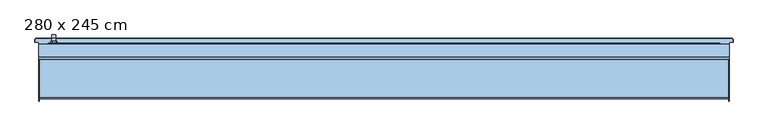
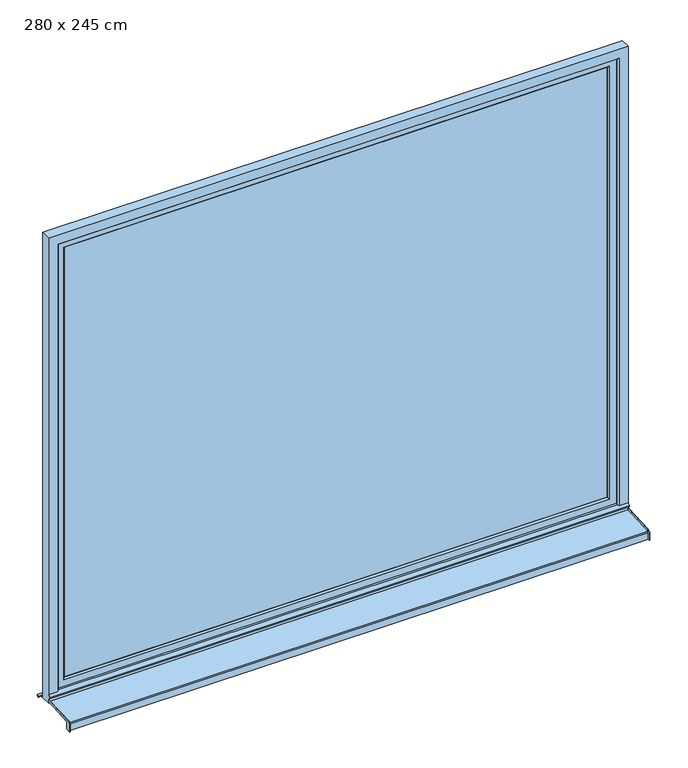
"""IFC4 building model written with IfcOpenShell, lengths in millimetres: window geometry, Fenêtre type 1 : 280 x 245 cm."""

from ifc_helpers import new_model, si_unit, frame, origin, place, context, project, spatial, polyline, circle_curve, outline, extrude, faceted_brep, source, transform, mapped, element, save
from ifc_brep_helpers import plane_surface, cylinder_surface, revolved_surface, advanced_brep


def window_280_x_245_cm_447e3024(model_context):
    return source(origin(), model_context, "Body", "SolidModel", [
        faceted_brep([(-1360.5, 103.0, 1306.0), (-1360.5, 103.0, 1294.0), (-1344.5, 103.0, 1294.0), (-1344.5, 103.0, 1306.0), (-1344.5, 115.4852814, 1306.0), (-1360.5, 115.4852814, 1306.0), (-1344.5, 110.5147186, 1294.0), (-1344.5, 117.0, 1287.5147186), (-1344.5, 117.0, 1287.2282668), (-1344.5, 119.7580139, 1208.5355339), (-1344.5, 129.0, 1208.5355339), (-1344.5, 129.0, 1292.4852814), (-1360.5, 110.5147186, 1294.0), (-1360.5, 129.0, 1292.4852814), (-1360.5, 129.0, 1208.5355339), (-1360.5, 119.7580139, 1208.5355339), (-1360.5, 117.0099909, 1287.2286157), (-1360.5, 117.0, 1287.5147186), (-1348.0355339, 129.0, 1205.0), (-1348.0355339, 119.8814775, 1205.0), (-1356.9644661, 119.8814775, 1205.0), (-1356.9644661, 129.0, 1205.0)], [[[0, 1, 2, 3]], [[3, 4, 5, 0]], [[2, 6, 7, 8, 9, 10, 11, 4, 3]], [[1, 12, 6, 2]], [[0, 5, 13, 14, 15, 16, 17, 12, 1]], [[4, 11, 13, 5]], [[6, 12, 17, 7]], [[18, 19, 20, 21]], [[11, 10, 18, 21, 14, 13]], [[17, 16, 8, 7]], [[16, 15, 20, 19, 9, 8]], [[9, 19, 18, 10]], [[14, 21, 20, 15]]]),
        extrude(outline(polyline([(1330.0, -1359.5), (1325.0, -1364.5), (1275.0, -1364.5), (1270.0, -1359.5), (1270.0, -1345.5), (1275.0, -1340.5), (1325.0, -1340.5), (1330.0, -1345.5), (1330.0, -1359.5)])), frame((0.0, 95.0, 0.0), z_axis=(0.0, 1.0, 0.0), x_axis=(0.0, 0.0, 1.0)), (0.0, 0.0, 1.0), 8.0),
        advanced_brep(
        [(-1415.0, -115.0, 762.0), (-1415.0, -141.5, 762.0), (-1415.0, -141.5, 795.1063906), (-1415.0, -127.2850393, 810.0858337), (-1415.0, 40.0, 818.8528711), (-1415.0, 40.0, 807.3370891), (-1415.0, -115.0, 799.2138833), (1415.0, -115.0, 799.2138833), (1415.0, 40.0, 807.3370891), (1415.0, 40.0, 818.8528711), (1415.0, -127.2850393, 810.0858337), (1415.0, -141.5, 795.1063906), (1415.0, -141.5, 762.0), (1415.0, -115.0, 762.0), (-1413.0, 40.0, 818.8528711), (-1413.0, 40.0, 808.8391476), (1413.0, 40.0, 808.8391476), (1413.0, 40.0, 818.8528711), (-1413.0, -126.7616798, 800.0995383), (1413.0, -126.7616798, 800.0995383), (1413.0, -131.5, 795.1063906), (-1413.0, -131.5, 795.1063906), (-1413.0, -131.5, 762.0), (1413.0, -131.5, 762.0), (-1413.0, -130.0, 762.0), (1413.0, -130.0, 762.0), (1413.0, -115.0, 762.0), (1413.0, -141.5, 762.0), (-1413.0, -141.5, 762.0), (-1413.0, -115.0, 762.0), (-1413.0, -120.0, 772.0), (1413.0, -120.0, 772.0), (-1413.0, -121.0606602, 773.0606602), (1413.0, -121.0606602, 773.0606602), (-1413.0, -130.0, 764.1213203), (1413.0, -130.0, 764.1213203), (-1413.0, -130.0, 795.0728058), (1413.0, -130.0, 795.0728058), (-1413.0, -115.0, 799.2138833), (1413.0, -115.0, 799.2138833), (1413.0, -126.649637, 798.6033517), (-1413.0, -126.649637, 798.6033517), (1413.0, -141.5, 795.1063906), (1413.0, -127.2850393, 810.0858337), (-1413.0, -127.2850393, 810.0858337), (-1413.0, -141.5, 795.1063906)],
        [
            (0, 1),
            (1, 2),
            (2, 3, circle_curve(frame((-1415.0, -126.5, 795.1063906), z_axis=(-1.0, 0.0, 0.0), x_axis=(0.0, -0.052335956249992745, 0.9986295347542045)), 15.0)),
            (3, 4),
            (4, 5),
            (5, 6),
            (6, 0),
            (7, 8),
            (8, 9),
            (9, 10),
            (10, 11, circle_curve(frame((1415.0, -126.5, 795.1063906), z_axis=(1.0, 0.0, 0.0), x_axis=(0.0, -1.0, 0.0)), 15.0)),
            (11, 12),
            (12, 13),
            (13, 7),
            (14, 15),
            (15, 16),
            (16, 17),
            (17, 9),
            (8, 5),
            (4, 14),
            (18, 19),
            (19, 16),
            (15, 18),
            (20, 21),
            (21, 22),
            (22, 23),
            (23, 20),
            (24, 25),
            (25, 26),
            (26, 13),
            (12, 27),
            (27, 23),
            (22, 28),
            (28, 1),
            (0, 29),
            (29, 24),
            (30, 31),
            (31, 25),
            (24, 30),
            (32, 33),
            (33, 31),
            (30, 32),
            (34, 35),
            (35, 33),
            (32, 34),
            (36, 37),
            (37, 35),
            (34, 36),
            (38, 6),
            (7, 39),
            (39, 40),
            (40, 41),
            (41, 38),
            (41, 36, circle_curve(frame((-1413.0, -126.4646089, 795.0728058), z_axis=(1.0, 0.0, 0.0), x_axis=(0.0, 1.0, 0.0)), 3.5353911)),
            (29, 38),
            (37, 40, circle_curve(frame((1413.0, -126.4646089, 795.0728058), z_axis=(-1.0, 0.0, 0.0), x_axis=(0.0, 1.0, 0.0)), 3.5353911)),
            (39, 26),
            (18, 21, circle_curve(frame((-1413.0, -126.5, 795.1063906), z_axis=(1.0, 0.0, 0.0), x_axis=(0.0, 1.0, 0.0)), 5.0)),
            (20, 19, circle_curve(frame((1413.0, -126.5, 795.1063906), z_axis=(-1.0, 0.0, 0.0), x_axis=(0.0, 1.0, 0.0)), 5.0)),
            (27, 42),
            (42, 43, circle_curve(frame((1413.0, -126.5, 795.1063906), z_axis=(-1.0, 0.0, 0.0), x_axis=(0.0, -1.0, 0.0)), 15.0)),
            (43, 17),
            (11, 42),
            (10, 43),
            (14, 44),
            (44, 45, circle_curve(frame((-1413.0, -126.5, 795.1063906), z_axis=(1.0, 0.0, 0.0), x_axis=(0.0, -0.052335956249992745, 0.9986295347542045)), 15.0)),
            (45, 28),
            (3, 44),
            (2, 45),
        ],
        [
            plane_surface(frame((-1415.0, 40.0, 807.3370891), z_axis=(-1.0, 0.0, 0.0), x_axis=(0.0, 0.0, 1.0))),
            plane_surface(frame((1415.0, 40.0, 807.3370891), z_axis=(1.0, 0.0, 0.0), x_axis=(0.0, 0.0, -1.0))),
            plane_surface(frame((-1415.0, 40.0, 807.3370891), z_axis=(0.0, 1.0, 0.0), x_axis=(1.0, 0.0, 0.0))),
            plane_surface(frame((-1415.0, 40.0, 808.8391476), z_axis=(0.0, -0.052335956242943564, 0.9986295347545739), x_axis=(1.0, 0.0, 0.0))),
            plane_surface(frame((-1415.0, -131.5, 795.1063906), z_axis=(0.0, -1.0, 0.0), x_axis=(1.0, 0.0, 0.0))),
            plane_surface(frame((-1415.0, -131.5, 762.0), z_axis=(0.0, 0.0, -1.0), x_axis=(1.0, 0.0, 0.0))),
            plane_surface(frame((-1415.0, -130.0, 762.0), z_axis=(0.0, 0.7071067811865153, -0.7071067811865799), x_axis=(1.0, 0.0, 0.0))),
            plane_surface(frame((-1415.0, -120.0, 772.0), z_axis=(0.0, 0.7071067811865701, 0.707106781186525), x_axis=(1.0, 0.0, 0.0))),
            plane_surface(frame((-1415.0, -121.0606602, 773.0606602), z_axis=(0.0, -0.7071067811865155, 0.7071067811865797), x_axis=(1.0, 0.0, 0.0))),
            plane_surface(frame((-1415.0, -130.0, 764.1213203), z_axis=(0.0, 1.0, 0.0), x_axis=(1.0, 0.0, 0.0))),
            plane_surface(frame((-1415.0, -126.649637, 798.6033517), z_axis=(0.0, 0.05233595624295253, -0.9986295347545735), x_axis=(1.0, 0.0, 0.0))),
            plane_surface(frame((-1413.0, -130.0, 798.4277666), z_axis=(1.0, 0.0, 0.0), x_axis=(0.0, 0.9986295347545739, 0.052335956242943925))),
            plane_surface(frame((-1415.0, -115.0, 762.0), z_axis=(0.0, 1.0, 0.0), x_axis=(1.0, 0.0, 0.0))),
            plane_surface(frame((1413.0, -130.0, 798.4277666), z_axis=(-1.0, 0.0, 0.0), x_axis=(0.0, 0.0, -1.0))),
            plane_surface(frame((1413.0, -115.0, 762.0), z_axis=(0.0, 1.0, 0.0), x_axis=(1.0, 0.0, 0.0))),
            cylinder_surface(frame((1415.0, -126.5, 795.1063906), z_axis=(-1.0, 0.0, 0.0), x_axis=(0.0, 1.0, 0.0)), 5.0),
            revolved_surface(polyline([(1413.0, -122.9292178, 795.0728058), (-1413.0, -122.9292178, 795.0728058)]), (1415.0, -126.4646089, 795.0728058), (1.0, 0.0, 0.0)),
            plane_surface(frame((1413.0, -131.5, 762.0), z_axis=(-1.0, 0.0, 0.0), x_axis=(0.0, 0.0, 1.0))),
            plane_surface(frame((1413.0, -141.5, 762.0), z_axis=(0.0, -1.0, 0.0), x_axis=(0.0, 0.0, 1.0))),
            cylinder_surface(frame((1415.0, -126.5, 795.1063906), z_axis=(1.0, 0.0, 0.0), x_axis=(0.0, -1.0, 0.0)), 15.0),
            plane_surface(frame((1413.0, -127.2850393, 810.0858337), z_axis=(0.0, -0.05233595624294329, 0.9986295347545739), x_axis=(0.0, 0.9986295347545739, 0.05233595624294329))),
            plane_surface(frame((-1413.0, 40.0, 818.8528711), z_axis=(1.0, 0.0, 0.0), x_axis=(0.0, 0.9986295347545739, 0.05233595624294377))),
            plane_surface(frame((-1415.0, 40.0, 818.8528711), z_axis=(0.0, -0.05233595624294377, 0.9986295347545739), x_axis=(1.0, 0.0, 0.0))),
            cylinder_surface(frame((-1415.0, -126.5, 795.1063906), z_axis=(-1.0, 0.0, 0.0), x_axis=(0.0, -0.052335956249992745, 0.9986295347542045)), 15.0),
            plane_surface(frame((-1413.0, -141.5, 795.1063906), z_axis=(0.0, -1.0, 0.0), x_axis=(0.0, 0.0, -1.0))),
        ],
        [
            (0, [[1, 2, 3, 4, 5, 6, 7]]),
            (1, [[8, 9, 10, 11, 12, 13, 14]]),
            (2, [[15, 16, 17, 18, -9, 19, -5, 20]]),
            (3, [[21, 22, -16, 23]]),
            (4, [[24, 25, 26, 27]]),
            (5, [[28, 29, 30, -13, 31, 32, -26, 33, 34, -1, 35, 36]]),
            (6, [[37, 38, -28, 39]]),
            (7, [[40, 41, -37, 42]]),
            (8, [[43, 44, -40, 45]]),
            (9, [[46, 47, -43, 48]]),
            (10, [[49, -6, -19, -8, 50, 51, 52, 53]]),
            (11, [[-53, 54, -48, -45, -42, -39, -36, 55]]),
            (12, [[-35, -7, -49, -55]]),
            (13, [[-38, -41, -44, -47, 56, -51, 57, -29]]),
            (14, [[-50, -14, -30, -57]]),
            (15, [[-21, 58, -24, 59]]),
            (16, [[-52, -56, -46, -54]]),
            (17, [[60, 61, 62, -17, -22, -59, -27, -32]]),
            (18, [[-12, 63, -60, -31]]),
            (19, [[64, -61, -63, -11]]),
            (20, [[-10, -18, -62, -64]]),
            (21, [[65, 66, 67, -33, -25, -58, -23, -15]]),
            (22, [[68, -65, -20, -4]]),
            (23, [[69, -66, -68, -3]]),
            (24, [[-34, -67, -69, -2]]),
        ],
    ),
        extrude(outline(polyline([(-1325.0, 85.0), (1325.0, 85.0), (1325.0, 65.0), (-1325.0, 65.0), (-1325.0, 85.0)])), frame((0.0, 0.0, 890.0), z_axis=(0.0, 0.0, 1.0), x_axis=(1.0, 0.0, 0.0)), (0.0, 0.0, 1.0), 2220.0),
        faceted_brep([(-1375.0, 95.0, 840.0), (1375.0, 95.0, 840.0), (1375.0, 55.0, 840.0), (-1375.0, 55.0, 840.0), (1375.0, 95.0, 3160.0), (1375.0, 55.0, 3160.0), (-1375.0, 55.0, 3160.0), (1332.0710678, 55.0, 3117.0710678), (1332.0710678, 55.0, 882.9289322), (-1332.0710678, 55.0, 882.9289322), (-1332.0710678, 55.0, 3117.0710678), (-1375.0, 95.0, 3160.0), (1332.0710678, 95.0, 882.9289322), (1332.0710678, 95.0, 3117.0710678), (-1332.0710678, 95.0, 3117.0710678), (-1332.0710678, 95.0, 882.9289322), (-1325.0, 87.9289322, 890.0), (1325.0, 87.9289322, 890.0), (1325.0, 87.9289322, 3110.0), (1325.0, 62.0710678, 890.0), (1325.0, 62.0710678, 3110.0), (-1325.0, 62.0710678, 890.0), (-1325.0, 87.9289322, 3110.0), (-1325.0, 62.0710678, 3110.0)], [[[0, 1, 2, 3]], [[1, 4, 5, 2]], [[2, 5, 6, 3], [7, 8, 9, 10]], [[4, 1, 0, 11], [12, 13, 14, 15]], [[16, 17, 12, 15]], [[17, 18, 13, 12]], [[19, 20, 18, 17]], [[9, 8, 19, 21]], [[8, 7, 20, 19]], [[11, 0, 3, 6]], [[22, 16, 15, 14]], [[23, 21, 16, 22]], [[10, 9, 21, 23]], [[21, 19, 17, 16]], [[4, 11, 6, 5]], [[18, 22, 14, 13]], [[7, 10, 23, 20]], [[20, 23, 22, 18]]]),
        faceted_brep([(1415.0, 40.0, 800.0), (1415.0, 90.0, 800.0), (1415.0, 90.0, 3200.0), (1415.0, 40.0, 3200.0), (1415.0, 40.0, 845.0), (1415.0, 30.0, 835.0), (1415.0, 30.0, 830.0), (1415.0, 40.0, 830.0), (-1415.0, 40.0, 830.0), (-1415.0, 40.0, 800.0), (-1415.0, 30.0, 830.0), (-1415.0, 30.0, 835.0), (1370.0, 40.0, 845.0), (1365.0, 45.0, 850.0), (-1365.0, 45.0, 850.0), (-1370.0, 40.0, 845.0), (-1415.0, 40.0, 845.0), (-1415.0, 40.0, 3200.0), (-1370.0, 40.0, 3155.0), (1370.0, 40.0, 3155.0), (-1415.0, 90.0, 800.0), (-1415.0, 90.0, 3200.0), (1375.0, 90.0, 840.0), (1375.0, 90.0, 3160.0), (-1375.0, 90.0, 3160.0), (-1375.0, 90.0, 840.0), (-1375.0, 55.0, 840.0), (1375.0, 55.0, 840.0), (-1375.0, 55.0, 3160.0), (1375.0, 55.0, 3160.0), (1365.0, 55.0, 850.0), (1365.0, 55.0, 3150.0), (-1365.0, 55.0, 3150.0), (-1365.0, 55.0, 850.0), (-1365.0, 45.0, 3150.0), (1365.0, 45.0, 3150.0)], [[[0, 1, 2, 3, 4, 5, 6, 7]], [[7, 8, 9, 0]], [[6, 10, 8, 7]], [[5, 11, 10, 6]], [[5, 4, 12, 13, 14, 15, 16, 11]], [[17, 16, 15, 18, 19, 12, 4, 3]], [[1, 20, 21, 2], [22, 23, 24, 25]], [[0, 9, 20, 1]], [[9, 8, 10, 11, 16, 17, 21, 20]], [[25, 26, 27, 22]], [[26, 25, 24, 28]], [[22, 27, 29, 23]], [[29, 27, 26, 28], [30, 31, 32, 33]], [[33, 14, 13, 30]], [[34, 14, 33, 32]], [[31, 30, 13, 35]], [[35, 13, 12, 19]], [[18, 15, 14, 34]], [[3, 2, 21, 17]], [[28, 24, 23, 29]], [[31, 35, 34, 32]], [[18, 34, 35, 19]]]),
        advanced_brep(
        [(1415.0, 100.0, 805.0), (1428.9971508, 100.0, 805.0), (1428.9971508, 110.0, 805.0), (1425.0, 113.9971508, 805.0), (-1425.0, 113.9971508, 805.0), (-1428.9971508, 110.0, 805.0), (-1428.9971508, 100.0, 805.0), (-1415.0, 100.0, 805.0), (-1415.0, 90.0, 805.0), (1415.0, 90.0, 805.0), (-1415.0, 100.0, 800.0), (-1428.9971508, 100.0, 800.0), (-1428.9971508, 110.0, 800.0), (-1425.0, 113.9971508, 800.0), (1425.0, 113.9971508, 800.0), (1428.9971508, 110.0, 800.0), (1428.9971508, 100.0, 800.0), (1415.0, 100.0, 800.0), (1415.0, 90.0, 800.0), (-1415.0, 90.0, 800.0), (-1430.0, 110.0, 801.0028492), (-1430.0, 100.0, 801.0028492), (-1430.0, 100.0, 803.9971508), (-1430.0, 110.0, 803.9971508), (1430.0, 100.0, 801.0028492), (1430.0, 100.0, 803.9971508), (1430.0, 110.0, 801.0028492), (1430.0, 110.0, 803.9971508), (1425.0, 115.0, 801.0028492), (-1425.0, 115.0, 801.0028492), (-1425.0, 115.0, 803.9971508), (1425.0, 115.0, 803.9971508)],
        [
            (0, 1),
            (1, 2),
            (2, 3, circle_curve(frame((1425.0, 110.0, 805.0), z_axis=(0.0, 0.0, 1.0), x_axis=(0.0, 1.0, 0.0)), 3.9971508)),
            (3, 4),
            (4, 5, circle_curve(frame((-1425.0, 110.0, 805.0), z_axis=(0.0, 0.0, 1.0), x_axis=(-1.0, 0.0, 0.0)), 3.9971508)),
            (5, 6),
            (6, 7),
            (7, 8),
            (8, 9),
            (9, 0),
            (10, 11),
            (11, 12),
            (12, 13, circle_curve(frame((-1425.0, 110.0, 800.0), z_axis=(0.0, 0.0, -1.0), x_axis=(-1.0, 0.0, 0.0)), 3.9971508)),
            (13, 14),
            (14, 15, circle_curve(frame((1425.0, 110.0, 800.0), z_axis=(0.0, 0.0, -1.0), x_axis=(0.0, 1.0, 0.0)), 3.9971508)),
            (15, 16),
            (16, 17),
            (17, 18),
            (18, 19),
            (19, 10),
            (20, 21),
            (21, 22),
            (22, 23),
            (23, 20),
            (6, 22),
            (21, 11),
            (10, 7),
            (19, 8),
            (18, 9),
            (17, 0),
            (16, 24),
            (24, 25),
            (25, 1),
            (24, 26),
            (26, 27),
            (27, 25),
            (28, 29),
            (29, 30),
            (30, 31),
            (31, 28),
            (31, 27, circle_curve(frame((1425.0, 110.0, 803.9971508), z_axis=(0.0, 0.0, -1.0), x_axis=(0.0, 1.0, 0.0)), 5.0)),
            (26, 28, circle_curve(frame((1425.0, 110.0, 801.0028492), z_axis=(0.0, 0.0, 1.0), x_axis=(0.0, 1.0, 0.0)), 5.0)),
            (23, 30, circle_curve(frame((-1425.0, 110.0, 803.9971508), z_axis=(0.0, 0.0, -1.0), x_axis=(0.0, 1.0, 0.0)), 5.0)),
            (29, 20, circle_curve(frame((-1425.0, 110.0, 801.0028492), z_axis=(0.0, 0.0, 1.0), x_axis=(0.0, 1.0, 0.0)), 5.0)),
            (5, 23),
            (20, 12),
            (4, 30),
            (29, 13),
            (3, 31),
            (28, 14),
            (2, 27),
            (26, 15),
        ],
        [
            plane_surface(frame((-1430.0, 100.0, 805.0), z_axis=(0.0, 0.0, 1.0), x_axis=(0.0, 1.0, 0.0))),
            plane_surface(frame((-1430.0, 100.0, 800.0), z_axis=(0.0, 0.0, -1.0), x_axis=(0.0, -1.0, 0.0))),
            plane_surface(frame((-1430.0, 110.0, 800.0), z_axis=(-1.0, 0.0, 0.0), x_axis=(0.0, 0.0, 1.0))),
            plane_surface(frame((-1430.0, 100.0, 800.0), z_axis=(0.0, -1.0, 0.0), x_axis=(0.0, 0.0, 1.0))),
            plane_surface(frame((-1415.0, 100.0, 800.0), z_axis=(-1.0, 0.0, 0.0), x_axis=(0.0, 0.0, 1.0))),
            plane_surface(frame((-1415.0, 90.0, 800.0), z_axis=(0.0, -1.0, 0.0), x_axis=(0.0, 0.0, 1.0))),
            plane_surface(frame((1415.0, 90.0, 800.0), z_axis=(1.0, 0.0, 0.0), x_axis=(0.0, 0.0, 1.0))),
            plane_surface(frame((1415.0, 100.0, 800.0), z_axis=(0.0, -1.0, 0.0), x_axis=(0.0, 0.0, 1.0))),
            plane_surface(frame((1430.0, 100.0, 800.0), z_axis=(1.0, 0.0, 0.0), x_axis=(0.0, 0.0, 1.0))),
            plane_surface(frame((1425.0, 115.0, 800.0), z_axis=(0.0, 1.0, 0.0), x_axis=(0.0, 0.0, 1.0))),
            cylinder_surface(frame((1425.0, 110.0, 805.0), z_axis=(0.0, 0.0, -1.0), x_axis=(0.0, 1.0, 0.0)), 5.0),
            cylinder_surface(frame((-1425.0, 110.0, 805.0), z_axis=(0.0, 0.0, -1.0), x_axis=(0.0, 1.0, 0.0)), 5.0),
            plane_surface(frame((-1428.9971508, 100.0, 805.0), z_axis=(-0.7071067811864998, 0.0, 0.7071067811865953), x_axis=(0.0, 1.0, 0.0))),
            plane_surface(frame((-1430.0, 100.0, 801.0028492), z_axis=(-0.707106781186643, 0.0, -0.7071067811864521), x_axis=(0.0, 1.0, 0.0))),
            revolved_surface(polyline([(-1430.0, 110.0, 803.9971508), (-1428.9971508, 110.0, 805.0)]), (-1425.0, 110.0, 805.0), (0.0, 0.0, 1.0)),
            revolved_surface(polyline([(-1428.9971508, 110.0, 800.0), (-1430.0, 110.0, 801.0028492)]), (-1425.0, 110.0, 805.0), (0.0, 0.0, 1.0)),
            plane_surface(frame((-1425.0, 113.9971508, 805.0), z_axis=(0.0, 0.7071067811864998, 0.7071067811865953), x_axis=(1.0, 0.0, 0.0))),
            plane_surface(frame((-1425.0, 115.0, 801.0028492), z_axis=(0.0, 0.707106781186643, -0.7071067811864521), x_axis=(1.0, 0.0, 0.0))),
            revolved_surface(polyline([(1425.0, 115.0, 803.9971508), (1425.0, 113.9971508, 805.0)]), (1425.0, 110.0, 805.0), (0.0, 0.0, 1.0)),
            revolved_surface(polyline([(1425.0, 113.9971508, 800.0), (1425.0, 115.0, 801.0028492)]), (1425.0, 110.0, 805.0), (0.0, 0.0, 1.0)),
            plane_surface(frame((1428.9971508, 110.0, 805.0), z_axis=(0.7071067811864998, 0.0, 0.7071067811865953), x_axis=(0.0, -1.0, 0.0))),
            plane_surface(frame((1430.0, 110.0, 801.0028492), z_axis=(0.707106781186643, 0.0, -0.7071067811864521), x_axis=(0.0, -1.0, 0.0))),
        ],
        [
            (0, [[1, 2, 3, 4, 5, 6, 7, 8, 9, 10]]),
            (1, [[11, 12, 13, 14, 15, 16, 17, 18, 19, 20]]),
            (2, [[21, 22, 23, 24]]),
            (3, [[-7, 25, -22, 26, -11, 27]]),
            (4, [[-27, -20, 28, -8]]),
            (5, [[-28, -19, 29, -9]]),
            (6, [[-29, -18, 30, -10]]),
            (7, [[-17, 31, 32, 33, -1, -30]]),
            (8, [[34, 35, 36, -32]]),
            (9, [[37, 38, 39, 40]]),
            (10, [[41, -35, 42, -40]]),
            (11, [[43, -38, 44, -24]]),
            (12, [[-23, -25, -6, 45]]),
            (13, [[-12, -26, -21, 46]]),
            (14, [[-5, 47, -43, -45]]),
            (15, [[-44, 48, -13, -46]]),
            (16, [[-4, 49, -39, -47]]),
            (17, [[-37, 50, -14, -48]]),
            (18, [[-3, 51, -41, -49]]),
            (19, [[-42, 52, -15, -50]]),
            (20, [[-2, -33, -36, -51]]),
            (21, [[-34, -31, -16, -52]]),
        ],
    ),
    ])


if __name__ == "__main__":
    model = new_model("IFC4")
    model_context = context("Model", 3, world=origin())
    ifc_project = project(units=[si_unit("LENGTHUNIT", "METRE", prefix="MILLI")], contexts=[model_context])
    site = spatial("IfcSite", under=ifc_project)
    building = spatial("IfcBuilding", under=site)
    placement = place(None, origin())
    window_280_x_245_cm_shape = window_280_x_245_cm_447e3024(model_context)
    element("IfcWindow", 1, ObjectType="Fenêtre type 1 : 280 x 245 cm", at=placement, inside=building, context=model_context, shape_type="MappedRepresentation", body=[
        mapped(window_280_x_245_cm_shape, transform((0.0, 0.0, 0.0), x_axis=(1.0, 0.0, 0.0), y_axis=(0.0, 1.0, 0.0), z_axis=(0.0, 0.0, 1.0))),
    ])
    save(model, "model.ifc")
